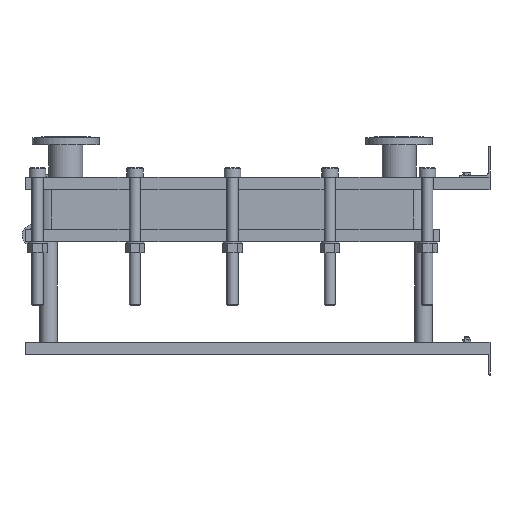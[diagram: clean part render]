
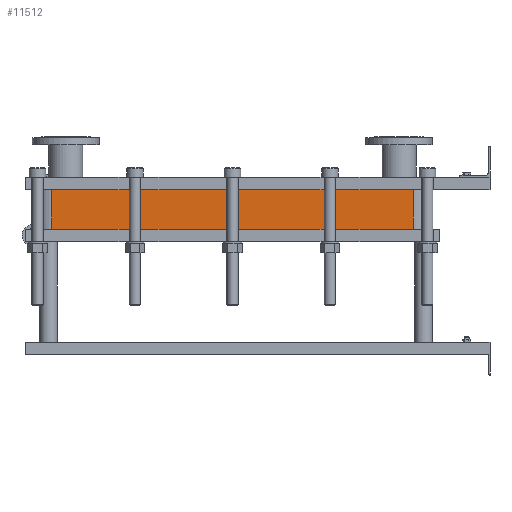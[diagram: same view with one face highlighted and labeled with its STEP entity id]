
A CAD part, left-side view. The second image highlights one B-rep face of the part: STEP entity #11512.
In plain terms, the highlighted planar face has unit normal (-1, 0, 0).
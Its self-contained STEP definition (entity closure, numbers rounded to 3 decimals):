
#1129=LINE('',#23232,#2102);
#1130=LINE('',#23236,#2103);
#1131=LINE('',#23238,#2104);
#1132=LINE('',#23239,#2105);
#2102=VECTOR('',#15887,10.);
#2103=VECTOR('',#15892,10.);
#2104=VECTOR('',#15893,10.);
#2105=VECTOR('',#15894,10.);
#3267=FACE_OUTER_BOUND('',#4093,.T.);
#4093=EDGE_LOOP('',(#10103,#10104,#10105,#10106));
#5642=VERTEX_POINT('',#23229);
#5643=VERTEX_POINT('',#23231);
#5644=VERTEX_POINT('',#23235);
#5645=VERTEX_POINT('',#23237);
#7159=EDGE_CURVE('',#5643,#5642,#1129,.T.);
#7161=EDGE_CURVE('',#5642,#5644,#1130,.T.);
#7162=EDGE_CURVE('',#5645,#5644,#1131,.T.);
#7163=EDGE_CURVE('',#5645,#5643,#1132,.T.);
#10103=ORIENTED_EDGE('',*,*,#7161,.T.);
#10104=ORIENTED_EDGE('',*,*,#7162,.F.);
#10105=ORIENTED_EDGE('',*,*,#7163,.T.);
#10106=ORIENTED_EDGE('',*,*,#7159,.T.);
#10857=PLANE('',#12751);
#11512=ADVANCED_FACE('',(#3267),#10857,.T.);
#12751=AXIS2_PLACEMENT_3D('',#23234,#15890,#15891);
#15887=DIRECTION('',(0.,0.,-1.));
#15890=DIRECTION('center_axis',(-1.,0.,0.));
#15891=DIRECTION('ref_axis',(0.,1.,0.));
#15892=DIRECTION('',(0.,-1.,0.));
#15893=DIRECTION('',(0.,0.,-1.));
#15894=DIRECTION('',(0.,1.,0.));
#23229=CARTESIAN_POINT('',(-200.,1414.,-127.65));
#23231=CARTESIAN_POINT('',(-200.,1414.,0.));
#23232=CARTESIAN_POINT('',(-200.,1414.,0.));
#23234=CARTESIAN_POINT('Origin',(-200.,248.,0.));
#23235=CARTESIAN_POINT('',(-200.,248.,-127.65));
#23236=CARTESIAN_POINT('',(-200.,539.5,-127.65));
#23237=CARTESIAN_POINT('',(-200.,248.,0.));
#23238=CARTESIAN_POINT('',(-200.,248.,0.));
#23239=CARTESIAN_POINT('',(-200.,248.,0.));
